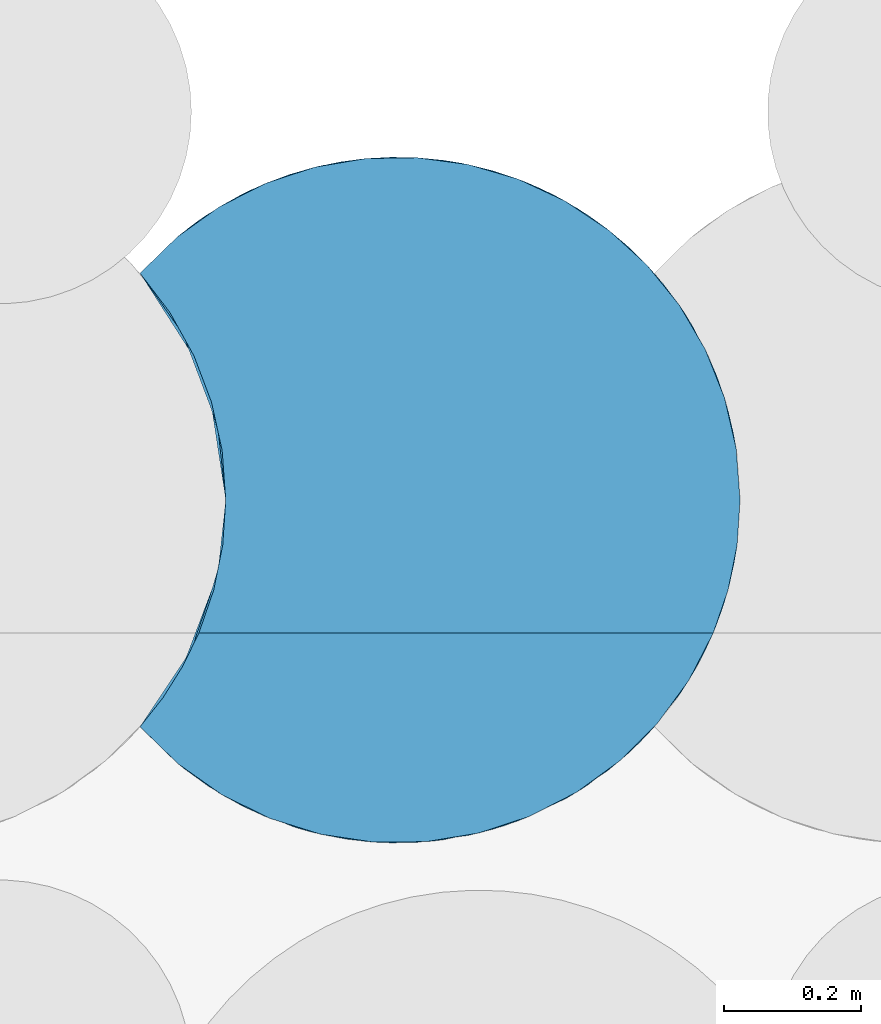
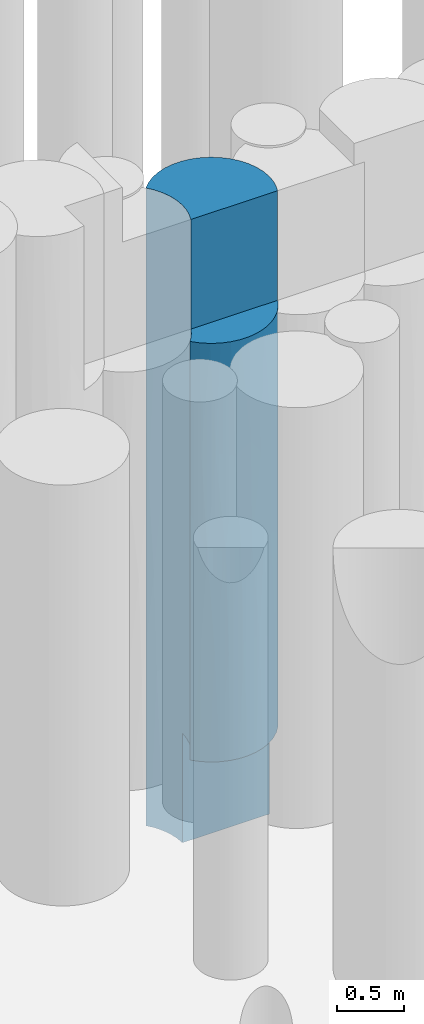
# One storey, part 91 of 104: 1 pile.
"""IFC2X3 building model written with IfcOpenShell, lengths in millimetres."""

from ifc_helpers import new_model, entity, si_unit, converted_unit, derived_unit, direction, frame, origin, place, context, subcontext, project, spatial, faceted_brep, source, transform, mapped, material, element, save


model = new_model("IFC2X3")

# Units and contexts
model_context = context("Model", 3, precision=0.01, world=origin(), true_north=direction((6.12303176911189e-17, 1.0)))
body_context = subcontext(model_context, "Body", "Model", "MODEL_VIEW")
ifc_project = project(units=[si_unit("LENGTHUNIT", "METRE", prefix="MILLI"), si_unit("AREAUNIT", "SQUARE_METRE", prefix="MILLI"), si_unit("VOLUMEUNIT", "CUBIC_METRE"), converted_unit("PLANEANGLEUNIT", "DEGREE", entity("IfcRatioMeasure", 0.0174532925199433), si_unit("PLANEANGLEUNIT", "RADIAN"), dimensions=[0, 0, 0, 0, 0, 0, 0]), si_unit("MASSUNIT", "GRAM", prefix="KILO"), derived_unit("MASSDENSITYUNIT", [(si_unit("MASSUNIT", "GRAM", prefix="KILO"), 1), (si_unit("LENGTHUNIT", "METRE"), -3)]), derived_unit("MOMENTOFINERTIAUNIT", [(si_unit("LENGTHUNIT", "METRE"), 4)]), si_unit("TIMEUNIT", "SECOND"), si_unit("FREQUENCYUNIT", "HERTZ"), si_unit("THERMODYNAMICTEMPERATUREUNIT", "DEGREE_CELSIUS"), derived_unit("THERMALTRANSMITTANCEUNIT", [(si_unit("MASSUNIT", "GRAM", prefix="KILO"), 1), (si_unit("THERMODYNAMICTEMPERATUREUNIT", "KELVIN"), -1), (si_unit("TIMEUNIT", "SECOND"), -3)]), derived_unit("VOLUMETRICFLOWRATEUNIT", [(si_unit("LENGTHUNIT", "METRE"), 3), (si_unit("TIMEUNIT", "SECOND"), -1)]), si_unit("ELECTRICCURRENTUNIT", "AMPERE"), si_unit("ELECTRICVOLTAGEUNIT", "VOLT"), si_unit("POWERUNIT", "WATT"), si_unit("FORCEUNIT", "NEWTON", prefix="KILO"), si_unit("ILLUMINANCEUNIT", "LUX"), si_unit("LUMINOUSFLUXUNIT", "LUMEN"), si_unit("LUMINOUSINTENSITYUNIT", "CANDELA"), derived_unit("USERDEFINED", [(si_unit("MASSUNIT", "GRAM", prefix="KILO"), -1), (si_unit("LENGTHUNIT", "METRE"), -2), (si_unit("TIMEUNIT", "SECOND"), 3), (si_unit("LUMINOUSFLUXUNIT", "LUMEN"), 1)]), derived_unit("LINEARVELOCITYUNIT", [(si_unit("LENGTHUNIT", "METRE"), 1), (si_unit("TIMEUNIT", "SECOND"), -1)]), si_unit("PRESSUREUNIT", "PASCAL"), derived_unit("USERDEFINED", [(si_unit("LENGTHUNIT", "METRE"), -2), (si_unit("MASSUNIT", "GRAM", prefix="KILO"), 1), (si_unit("TIMEUNIT", "SECOND"), -2)]), derived_unit("LINEARFORCEUNIT", [(si_unit("MASSUNIT", "GRAM", prefix="KILO"), 1), (si_unit("LENGTHUNIT", "METRE"), 1), (si_unit("TIMEUNIT", "SECOND"), -2), (si_unit("LENGTHUNIT", "METRE"), -1)]), derived_unit("PLANARFORCEUNIT", [(si_unit("MASSUNIT", "GRAM", prefix="KILO"), 1), (si_unit("LENGTHUNIT", "METRE"), 1), (si_unit("TIMEUNIT", "SECOND"), -2), (si_unit("LENGTHUNIT", "METRE"), -2)])], contexts=[model_context])

# Site, building, storey
site_placement = place(None, origin())
site = spatial("IfcSite", under=ifc_project, at=site_placement, Name="Theater aan de Parade", CompositionType="ELEMENT")
building_placement = place(site_placement, origin())
building = spatial("IfcBuilding", under=site, at=building_placement, Name="Theater aan de Parade", CompositionType="ELEMENT")
storey_placement = place(building_placement, frame((0.0, 0.0, -5520.0)))
storey = spatial("IfcBuildingStorey", under=building, at=storey_placement, Name="-2 kelder", CompositionType="ELEMENT", Elevation=-5520.0)

# Pile
ifc_material = material(Name="00_PBT_MAT_grout")
shared_shape = source(origin(), body_context, "Body", "Brep", [
    faceted_brep([(480.905919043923, 989.723235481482, 0.0), (553.359276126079, 968.436955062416, 0.0), (621.78105669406, 936.481718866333, 0.0), (684.610488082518, 894.586162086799, 0.0), (740.414269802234, 843.705650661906, 0.0), (787.919260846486, 785.000514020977, 0.0), (826.041519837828, 719.809604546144, 0.0), (853.911036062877, 649.619785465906, 0.0), (870.891488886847, 576.032688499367, 0.0), (876.595272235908, 500.724985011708, 0.0), (126.595272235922, 500.724985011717, 0.0), (121.380912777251, 572.746994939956, 0.0), (105.846592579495, 643.266810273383, 0.0), (80.3163177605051, 710.813568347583, 0.0), (45.3225844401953, 773.978416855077, 0.0), (1.5952722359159, 831.443898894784, 0.0), (55.6837113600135, 884.151340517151, 0.0), (117.086743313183, 928.106925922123, 0.0), (184.40902194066, 962.31402863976, 0.0), (256.11503470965, 985.992449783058, 0.0), (330.569297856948, 998.602088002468, 0.0), (406.073640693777, 999.85525437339, 0.0), (796.79639950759, 771.70655752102, 888.184387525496), (568.215995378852, 962.549084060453, 4931.815291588), (653.987856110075, 916.721805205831, 4834.63788754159), (588.174311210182, 953.752920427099, 4054.16740491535), (876.595272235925, 500.724985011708, 1000.0), (876.595272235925, 500.724985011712, 5820.0), (876.595272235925, 500.724985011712, 4258.46227152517), (870.891488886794, 576.032688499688, 5820.0), (607.730602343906, 944.094423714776, 888.185873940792), (867.715687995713, 594.537229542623, 861.089666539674), (841.303362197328, 685.241626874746, 985.376641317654), (219.814373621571, 975.508883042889, 1101.80715144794), (859.865725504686, 628.981248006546, 2169.43900745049), (876.595272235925, 500.724985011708, 1848.46227152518), (713.474343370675, 870.20095369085, 1395.15093180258), (61.7323557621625, 889.133717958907, 4852.71046323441), (98.9663326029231, 916.564102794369, 3650.65785673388), (1.5952722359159, 831.443898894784, 4258.45836982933), (517.535032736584, 980.449889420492, 985.361026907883), (588.174311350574, 953.75292036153, 1765.83259186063), (473.12741178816, 991.318040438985, 2058.61215771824), (558.634772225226, 966.409020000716, 2910.0), (841.303361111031, 685.241629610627, 3794.9993553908), (841.303361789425, 685.24162790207, 4837.28100446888), (866.044521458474, 602.898525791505, 4316.14019093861), (117.229293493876, 928.193450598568, 1041.9897099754), (150.101177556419, 946.483243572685, 4834.65134222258), (293.103772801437, 993.704872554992, 4834.65119036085), (219.814373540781, 975.508883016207, 4054.185971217), (765.276677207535, 815.251240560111, 4360.79132527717), (740.414269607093, 843.705650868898, 5820.0), (787.919260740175, 785.000514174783, 5820.0), (269.12939270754, 989.03951964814, 2178.32714792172), (368.297776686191, 1000.65613183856, 1434.27895259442), (853.911036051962, 649.619785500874, 5820.0), (826.041519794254, 719.809604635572, 5820.0), (713.474342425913, 870.200954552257, 2910.0), (845.33056647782, 674.757234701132, 2925.54391858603), (868.289974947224, 591.479154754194, 3292.92846795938), (790.94888862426, 780.566155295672, 3236.33585581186), (443.681332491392, 996.204006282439, 4424.86421937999), (406.073640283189, 999.855254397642, 5820.0), (480.905918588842, 989.723235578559, 5820.0), (621.781056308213, 936.481719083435, 5820.0), (684.610487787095, 894.586162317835, 5820.0), (640.476151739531, 925.421207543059, 3121.39166315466), (808.212941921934, 753.12583131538, 1765.84492820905), (1.59527223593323, 831.443898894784, 1561.53610114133), (150.101177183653, 946.483243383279, 2024.9503239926), (326.587317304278, 998.217904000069, 3859.06035185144), (465.137844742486, 992.822752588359, 2950.55531634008), (117.086743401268, 928.106925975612, 5820.0), (70.7825099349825, 896.298687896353, 1776.46649649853), (88.2869202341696, 909.232382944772, 2706.6708120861), (553.359275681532, 968.436955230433, 5820.0), (1.5952722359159, 831.443898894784, 3123.07220228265), (330.56929754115, 998.602087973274, 5820.0), (256.115034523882, 985.992449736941, 5820.0), (184.409021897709, 962.314028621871, 5820.0), (681.446859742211, 897.039897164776, 3859.04214635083), (1.5952722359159, 831.443898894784, 5820.0), (55.6837115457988, 884.151340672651, 5820.0), (255.844337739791, 985.925162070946, 3143.7373937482), (164.478825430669, 953.501544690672, 3083.9375948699), (368.29777615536, 1000.65613182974, 2910.0), (876.595272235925, 500.724985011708, 3410.0), (876.595272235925, 500.724985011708, 2696.92454305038), (1.5952722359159, 831.443898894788, 2342.30710923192), (1.5952722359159, 831.443898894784, 4471.53807282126), (876.595272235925, 500.724985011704, 2561.53770592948), (1.5952722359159, 170.006071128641, 4820.0), (1.5952722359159, 170.006071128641, 3258.44704861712), (65.7086118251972, 109.126358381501, 3790.38026350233), (226.873470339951, 23.6679841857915, 2916.48393480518), (102.00985284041, 82.8699294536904, 2910.0), (150.100663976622, 54.9669874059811, 1991.82389668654), (64.6682914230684, 109.954517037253, 2072.58134997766), (1.5952722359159, 170.006071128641, 2561.52784441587), (302.524441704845, 6.24190940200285, 3767.79536219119), (154.831860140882, 52.5944358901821, 3816.33835144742), (406.083063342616, 1.5952722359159, 1000.0), (368.30590108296, 0.793703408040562, 2045.73832490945), (330.576079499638, 2.84725514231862, 1000.0), (517.547167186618, 21.0036457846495, 2045.73832478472), (480.917386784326, 11.7291809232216, 1000.0), (850.662772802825, 341.79102103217, 2956.44052538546), (861.508321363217, 378.826113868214, 3834.2311469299), (344.186401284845, 1.77642545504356, 2935.54362239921), (431.401367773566, 3.73776999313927, 3860.75460542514), (264.360232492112, 13.4844942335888, 4820.0), (341.13573115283, 1.9839490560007, 4820.0), (248.599938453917, 17.3853585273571, 1968.18399287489), (184.409890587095, 39.1355797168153, 1000.0), (256.118861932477, 15.4565700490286, 1000.0), (684.622701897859, 106.873359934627, 1000.0), (628.867381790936, 69.032058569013, 1967.10395614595), (621.794008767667, 64.9755391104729, 1000.0), (553.371967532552, 33.0178116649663, 1000.0), (841.307430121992, 316.218588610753, 2043.37036084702), (808.219743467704, 248.335770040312, 2895.90017392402), (859.059163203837, 369.467246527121, 5820.0), (837.43505350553, 306.748965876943, 4820.0), (868.23952280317, 409.697896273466, 4780.77998665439), (1.5952722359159, 170.006071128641, 1000.0), (55.6798336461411, 117.301875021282, 1000.0), (872.189506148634, 434.495419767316, 5820.0), (826.047002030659, 281.651612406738, 1000.0), (853.913874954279, 351.839285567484, 1000.0), (756.020367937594, 175.092374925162, 4820.0), (729.59569272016, 146.619487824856, 3681.8930576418), (820.985454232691, 271.558307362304, 3875.66302458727), (190.290405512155, 36.7309153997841, 4820.0), (57.3018640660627, 115.950090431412, 4820.0), (120.711842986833, 71.1628001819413, 4820.0), (443.691820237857, 5.24738385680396, 2901.16454376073), (532.726165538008, 25.7269385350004, 3709.65477491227), (495.379846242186, 15.0396702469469, 4820.0), (418.766079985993, 2.50653596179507, 4820.0), (713.485761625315, 131.25942753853, 2044.3529119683), (792.582410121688, 223.317881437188, 1965.80789176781), (740.42483092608, 157.755522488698, 1000.0), (787.927466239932, 216.461328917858, 1000.0), (569.130100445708, 39.2812290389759, 4820.0), (750.380941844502, 168.634224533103, 2815.59214578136), (867.735228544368, 407.015095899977, 2295.70145962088), (565.476980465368, 37.7739073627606, 2843.12848273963), (654.000489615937, 84.7365892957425, 2898.08494075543), (649.513725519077, 81.7792631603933, 3862.3180825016), (638.238940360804, 74.6468338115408, 4820.0), (701.040351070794, 120.283937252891, 4820.0), (117.08495382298, 73.3441306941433, 1000.0), (837.435053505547, 306.748965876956, 5820.0), (801.853566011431, 237.750873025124, 4820.0), (870.892400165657, 425.423263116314, 1000.0), (105.846592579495, 643.266810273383, 5820.0), (121.380912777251, 572.746994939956, 5820.0), (126.595272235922, 500.724985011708, 5820.0), (122.192599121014, 434.518568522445, 5820.0), (109.062113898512, 369.478092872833, 5820.0), (87.4350535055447, 306.748965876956, 5820.0), (45.3225844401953, 773.978416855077, 5820.0), (80.3163177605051, 710.813568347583, 5820.0), (87.4350535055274, 306.748965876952, 4820.0), (63.8150080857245, 258.157669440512, 4820.0), (35.0899489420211, 212.398609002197, 4820.0), (126.595272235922, 500.724985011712, 1000.0), (118.324598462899, 591.291368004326, 2272.69338970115), (94.3024449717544, 677.501681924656, 1823.06883603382), (103.716989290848, 650.240426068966, 929.570301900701), (117.814735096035, 594.017210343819, 3408.71629850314), (84.1845555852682, 702.249295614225, 3007.50704340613), (63.9612324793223, 743.028548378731, 4904.38906662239), (63.9612326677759, 743.028548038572, 1002.25156599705), (52.1169837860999, 763.272643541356, 4037.7453572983), (114.888484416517, 608.287705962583, 4904.38907047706), (126.595272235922, 500.724985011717, 4258.46227107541), (126.595272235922, 500.724985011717, 2696.92454215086), (126.595272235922, 500.724985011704, 3410.0), (94.3024445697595, 677.501682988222, 4191.94526063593), (52.6084708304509, 762.474396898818, 1951.92213503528), (126.595272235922, 500.724985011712, 1848.46227107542), (126.595272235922, 500.724985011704, 2561.53770595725), (105.846592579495, 358.183159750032, 1000.0), (80.3163177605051, 290.636401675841, 1000.0), (63.9612331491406, 258.421422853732, 1953.95952441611), (114.888484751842, 393.162265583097, 1953.95952434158), (94.3024456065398, 323.948289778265, 2715.05844097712), (53.5045692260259, 240.43965668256, 2910.0), (45.3225844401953, 227.471553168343, 1000.0), (118.711102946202, 412.28286176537, 2780.58047950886), (76.2818326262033, 282.13404877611, 3740.57177268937), (121.380912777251, 428.702975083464, 1000.0), (118.485844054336, 411.038501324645, 4821.60576812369), (114.840217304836, 392.943383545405, 3834.23114692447)], [[[0, 1, 2, 3, 4, 5, 6, 7, 8, 9, 10, 11, 12, 13, 14, 15, 16, 17, 18, 19, 20, 21]], [[22, 6, 5]], [[23, 24, 25]], [[9, 8, 26]], [[27, 28, 29]], [[30, 2, 1]], [[31, 7, 32]], [[18, 33, 19]], [[3, 2, 30]], [[34, 35, 31]], [[36, 4, 3]], [[37, 38, 39]], [[1, 40, 30]], [[32, 6, 22]], [[41, 42, 43]], [[4, 36, 22]], [[7, 6, 32]], [[44, 45, 46]], [[18, 47, 33]], [[48, 49, 50]], [[51, 52, 53]], [[33, 54, 55]], [[56, 45, 57]], [[58, 36, 41]], [[51, 53, 45]], [[34, 59, 60]], [[44, 59, 61]], [[45, 53, 57]], [[40, 1, 0]], [[24, 52, 51]], [[62, 63, 64]], [[24, 65, 66]], [[67, 41, 43]], [[36, 58, 68]], [[45, 56, 29]], [[40, 41, 30]], [[21, 40, 0]], [[55, 21, 20]], [[51, 45, 44]], [[16, 15, 69]], [[22, 68, 32]], [[46, 29, 28]], [[54, 33, 70]], [[49, 71, 50]], [[70, 33, 47]], [[47, 18, 17]], [[72, 25, 43]], [[20, 33, 55]], [[73, 48, 37]], [[74, 75, 70]], [[24, 23, 65]], [[40, 42, 41]], [[76, 65, 23]], [[23, 64, 76]], [[20, 19, 33]], [[77, 38, 75]], [[49, 63, 62]], [[78, 49, 79]], [[69, 47, 16]], [[80, 48, 73]], [[24, 81, 25]], [[79, 49, 48]], [[44, 46, 60]], [[79, 48, 80]], [[61, 51, 44]], [[82, 83, 37]], [[21, 55, 40]], [[42, 40, 55]], [[50, 71, 84]], [[52, 24, 66]], [[51, 61, 81]], [[34, 32, 68]], [[8, 31, 26]], [[63, 49, 78]], [[62, 72, 71]], [[38, 48, 50]], [[73, 37, 83]], [[60, 59, 44]], [[35, 26, 31]], [[50, 84, 85]], [[39, 38, 77]], [[55, 86, 42]], [[72, 43, 42]], [[85, 70, 75]], [[55, 54, 86]], [[72, 42, 86]], [[25, 81, 67]], [[51, 81, 24]], [[67, 81, 58]], [[62, 71, 49]], [[84, 86, 54]], [[86, 84, 71]], [[85, 54, 70]], [[29, 46, 45]], [[60, 28, 87, 88]], [[28, 60, 46]], [[34, 60, 88]], [[16, 47, 17]], [[74, 70, 47]], [[41, 36, 30]], [[3, 30, 36]], [[25, 62, 23]], [[64, 23, 62]], [[4, 22, 5]], [[36, 68, 22]], [[47, 69, 74]], [[74, 69, 89, 77]], [[77, 75, 74]], [[85, 75, 38]], [[50, 85, 38]], [[85, 84, 54]], [[41, 67, 58]], [[25, 67, 43]], [[34, 68, 59]], [[61, 68, 58]], [[68, 61, 59]], [[61, 58, 81]], [[7, 31, 8]], [[34, 31, 32]], [[38, 37, 48]], [[37, 39, 90, 82]], [[34, 88, 91, 35]], [[71, 72, 86]], [[25, 72, 62]], [[92, 93, 94]], [[95, 96, 97]], [[98, 96, 99]], [[100, 101, 95]], [[102, 103, 104]], [[96, 95, 101]], [[105, 103, 102, 106]], [[107, 87, 108]], [[109, 110, 100]], [[111, 100, 112]], [[95, 113, 109]], [[113, 114, 115]], [[116, 117, 118]], [[106, 119, 105]], [[120, 107, 121]], [[122, 123, 124]], [[125, 126, 98]], [[94, 93, 96]], [[27, 127, 124]], [[104, 103, 113]], [[93, 99, 96]], [[94, 96, 101]], [[100, 111, 101]], [[120, 128, 129]], [[130, 131, 132]], [[101, 111, 133]], [[134, 94, 135]], [[110, 136, 137]], [[87, 28, 108]], [[110, 138, 139]], [[132, 108, 123]], [[116, 140, 117]], [[141, 142, 143]], [[137, 144, 138]], [[105, 136, 103]], [[128, 141, 143]], [[131, 145, 121]], [[146, 87, 107]], [[131, 121, 132]], [[128, 120, 141]], [[109, 103, 136]], [[147, 148, 149]], [[146, 26, 35, 91, 88, 87]], [[117, 140, 148]], [[117, 119, 118]], [[113, 95, 97]], [[120, 121, 141]], [[110, 112, 100]], [[131, 149, 148]], [[114, 113, 97]], [[150, 149, 151]], [[131, 130, 151]], [[97, 98, 152]], [[153, 123, 122]], [[124, 108, 28]], [[114, 97, 152]], [[147, 149, 137]], [[147, 136, 105]], [[108, 124, 123]], [[101, 133, 135]], [[123, 154, 132]], [[116, 142, 140]], [[145, 148, 140]], [[144, 137, 149]], [[146, 129, 155]], [[98, 97, 96]], [[132, 154, 130]], [[132, 121, 107]], [[135, 94, 101]], [[92, 94, 134]], [[125, 98, 99]], [[152, 98, 126]], [[147, 117, 148]], [[119, 117, 105]], [[145, 141, 121]], [[142, 141, 140]], [[107, 120, 146]], [[132, 107, 108]], [[129, 146, 120]], [[26, 146, 155]], [[110, 109, 136]], [[95, 109, 100]], [[138, 110, 137]], [[110, 139, 112]], [[27, 124, 28]], [[122, 124, 127]], [[104, 113, 115]], [[109, 113, 103]], [[151, 149, 131]], [[149, 150, 144]], [[136, 147, 137]], [[117, 147, 105]], [[148, 145, 131]], [[141, 145, 140]], [[156, 157, 158, 159, 160, 161, 153, 122, 127, 27, 29, 56, 57, 53, 52, 66, 65, 76, 64, 63, 78, 79, 80, 73, 83, 82, 162, 163]], [[134, 135, 133, 111, 112, 139, 138, 144, 150, 151, 130, 154, 123, 164, 165, 166, 92]], [[161, 164, 123, 153]], [[167, 11, 10]], [[168, 169, 170]], [[168, 171, 172]], [[162, 173, 163]], [[170, 174, 13]], [[169, 174, 170]], [[170, 13, 12]], [[15, 174, 69]], [[90, 173, 82]], [[170, 12, 11]], [[82, 173, 162]], [[173, 90, 175]], [[176, 177, 158]], [[171, 178, 179, 177]], [[173, 176, 163]], [[163, 176, 156]], [[176, 173, 180]], [[14, 174, 15]], [[157, 156, 176]], [[13, 174, 14]], [[77, 172, 175]], [[157, 176, 158]], [[172, 77, 89]], [[177, 176, 171]], [[169, 172, 181]], [[180, 173, 175]], [[180, 175, 172]], [[175, 90, 39, 77]], [[180, 172, 171]], [[181, 89, 69]], [[176, 180, 171]], [[169, 168, 172]], [[168, 170, 182]], [[167, 170, 11]], [[168, 182, 183, 178]], [[182, 170, 167]], [[168, 178, 171]], [[69, 174, 181]], [[89, 181, 172]], [[169, 181, 174]], [[184, 185, 186, 187]], [[99, 186, 125]], [[188, 186, 189]], [[190, 125, 186]], [[93, 92, 166]], [[185, 190, 186]], [[188, 191, 187]], [[192, 93, 166]], [[187, 193, 184]], [[193, 187, 167]], [[165, 164, 192]], [[194, 177, 195]], [[179, 191, 195]], [[189, 99, 93]], [[187, 183, 182, 167]], [[164, 194, 195]], [[165, 192, 166]], [[161, 160, 164]], [[194, 164, 160]], [[195, 192, 164]], [[179, 195, 177]], [[93, 192, 189]], [[194, 159, 158]], [[183, 187, 191]], [[188, 187, 186]], [[192, 195, 188]], [[99, 189, 186]], [[188, 189, 192]], [[177, 194, 158]], [[159, 194, 160]], [[191, 179, 178, 183]], [[191, 188, 195]], [[142, 116, 118, 119, 106, 102, 104, 115, 114, 152, 126, 125, 190, 185, 184, 193, 167, 26, 155, 129, 128, 143]], [[167, 10, 9, 26]]]),
])
pile_placement = place(storey_placement, frame((82373.4047277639, 20203.2510341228, -3840.0)))
element("IfcPile", 1, at=pile_placement, inside=storey, material=ifc_material, Name="17_PBT_SFO_grondkering_rond:Ø1000 (grondkering)", ObjectType="17_PBT_SFO_grondkering_rond:Ø1000 (grondkering)", PredefinedType="NOTDEFINED", context=body_context, shape_type="MappedRepresentation", body=[
    mapped(shared_shape, transform((0.0, 0.0, 0.0), scale=1.0)),
])

save(model, "model.ifc")
